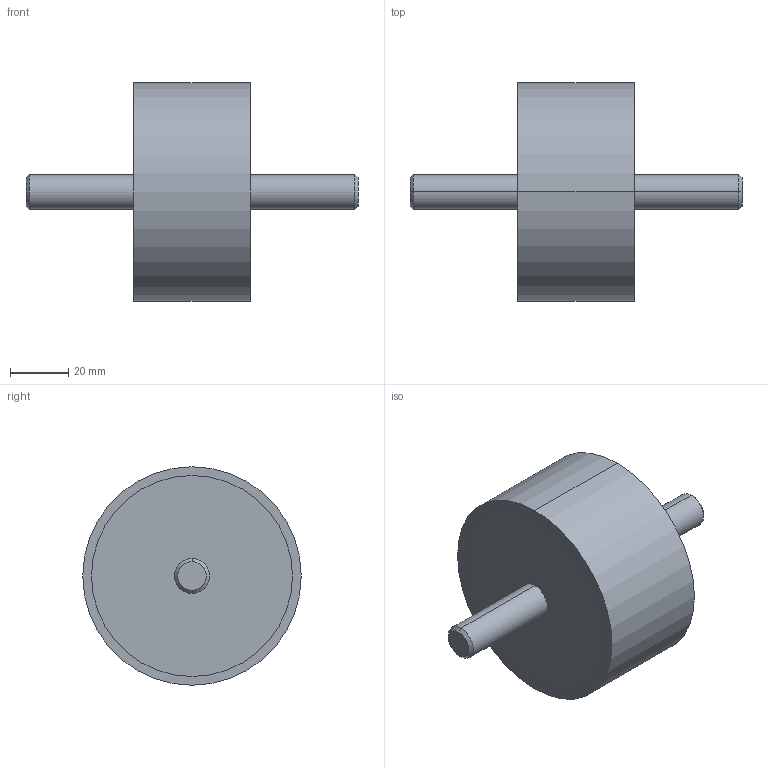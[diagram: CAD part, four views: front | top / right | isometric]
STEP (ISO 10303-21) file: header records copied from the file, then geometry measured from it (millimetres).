
FILE_DESCRIPTION (( 'STEP AP214' ), '1' );
FILE_NAME ('351-75-40-M12-SS-40.step', '2025-07-23T10:02:47', ( '' ), ( '' ), 'SwSTEP 2.0', 'SolidWorks 2022', '' );
FILE_SCHEMA (( 'AUTOMOTIVE_DESIGN' ));
Length unit declared in the file: millimetre
Products named in the file (1): 351-75-40-M12-SS-40
Bounding box: 114 x 75 x 75 mm (x, y, z)
Volume: 184968.4 mm3; surface area: 21003.6 mm2
Topology: 1 solids, 1 shells, 20 faces, 38 edges, 24 vertices
Faces by surface type: cylinder 10, plane 6, cone 4
Entity records: 636 total; most frequent: DIRECTION 104, CARTESIAN_POINT 83, ORIENTED_EDGE 76, AXIS2_PLACEMENT_3D 45, EDGE_CURVE 38, VERTEX_POINT 24, CIRCLE 24, EDGE_LOOP 24
